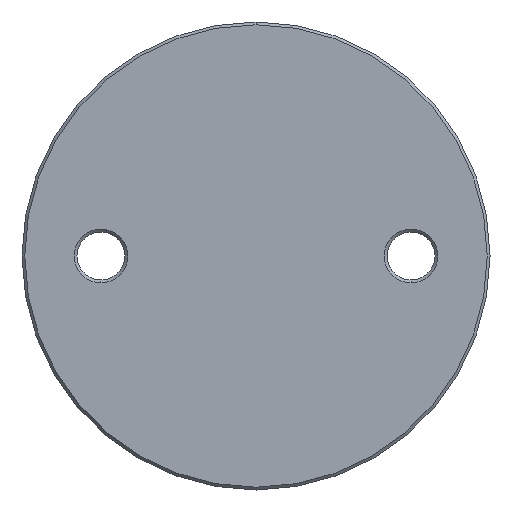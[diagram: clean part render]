
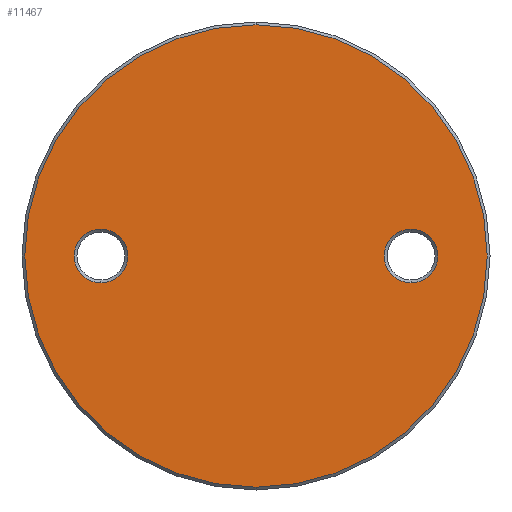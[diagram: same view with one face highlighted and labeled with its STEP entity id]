
A CAD part, front view. The second image highlights one B-rep face of the part: STEP entity #11467.
In plain terms, the highlighted planar face has unit normal (0, -1, 0).
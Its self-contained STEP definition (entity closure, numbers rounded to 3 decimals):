
#23 = AXIS2_PLACEMENT_3D ( 'NONE', #6435, #5716, #204 ) ;
#204 = DIRECTION ( 'NONE',  ( 0., 0., -1. ) ) ;
#217 = VERTEX_POINT ( 'NONE', #7643 ) ;
#546 = FACE_BOUND ( 'NONE', #1267, .T. ) ;
#597 = CARTESIAN_POINT ( 'NONE',  ( -27.5, -3., 0. ) ) ;
#604 = AXIS2_PLACEMENT_3D ( 'NONE', #8679, #6426, #7280 ) ;
#775 = DIRECTION ( 'NONE',  ( 0., 0., -1. ) ) ;
#834 = DIRECTION ( 'NONE',  ( 0., -1., 0. ) ) ;
#1090 = ORIENTED_EDGE ( 'NONE', *, *, #5834, .T. ) ;
#1267 = EDGE_LOOP ( 'NONE', ( #11381, #1090 ) ) ;
#2168 = CIRCLE ( 'NONE', #6238, 4.75 ) ;
#2507 = ORIENTED_EDGE ( 'NONE', *, *, #4407, .T. ) ;
#3042 = EDGE_CURVE ( 'NONE', #4175, #6158, #8639, .T. ) ;
#3391 = DIRECTION ( 'NONE',  ( 0., 0., -1. ) ) ;
#3841 = DIRECTION ( 'NONE',  ( 0., 0., -1. ) ) ;
#3947 = CARTESIAN_POINT ( 'NONE',  ( 0., -3., 41. ) ) ;
#4175 = VERTEX_POINT ( 'NONE', #6490 ) ;
#4253 = AXIS2_PLACEMENT_3D ( 'NONE', #11690, #5419, #3391 ) ;
#4407 = EDGE_CURVE ( 'NONE', #7616, #4933, #5432, .T. ) ;
#4526 = PLANE ( 'NONE',  #7952 ) ;
#4561 = CARTESIAN_POINT ( 'NONE',  ( 0., -3., 41.5 ) ) ;
#4639 = DIRECTION ( 'NONE',  ( 0., 0., -1. ) ) ;
#4740 = AXIS2_PLACEMENT_3D ( 'NONE', #4769, #9280, #3841 ) ;
#4769 = CARTESIAN_POINT ( 'NONE',  ( 27.5, -3., 0. ) ) ;
#4933 = VERTEX_POINT ( 'NONE', #3947 ) ;
#5306 = FACE_OUTER_BOUND ( 'NONE', #5737, .T. ) ;
#5346 = DIRECTION ( 'NONE',  ( 0., 1., 0. ) ) ;
#5388 = CARTESIAN_POINT ( 'NONE',  ( -27.5, -3., 0. ) ) ;
#5419 = DIRECTION ( 'NONE',  ( 0., -1., 0. ) ) ;
#5432 = CIRCLE ( 'NONE', #23, 41. ) ;
#5716 = DIRECTION ( 'NONE',  ( 0., -1., 0. ) ) ;
#5737 = EDGE_LOOP ( 'NONE', ( #7780, #2507 ) ) ;
#5834 = EDGE_CURVE ( 'NONE', #8607, #217, #10042, .T. ) ;
#6158 = VERTEX_POINT ( 'NONE', #8827 ) ;
#6173 = DIRECTION ( 'NONE',  ( 0., 1., 0. ) ) ;
#6238 = AXIS2_PLACEMENT_3D ( 'NONE', #5388, #5346, #775 ) ;
#6426 = DIRECTION ( 'NONE',  ( 0., 1., 0. ) ) ;
#6435 = CARTESIAN_POINT ( 'NONE',  ( 0., -3., 0. ) ) ;
#6490 = CARTESIAN_POINT ( 'NONE',  ( -27.5, -3., 4.75 ) ) ;
#7280 = DIRECTION ( 'NONE',  ( 0., 0., -1. ) ) ;
#7400 = CARTESIAN_POINT ( 'NONE',  ( 27.5, -3., 4.75 ) ) ;
#7496 = CIRCLE ( 'NONE', #4253, 41. ) ;
#7616 = VERTEX_POINT ( 'NONE', #9705 ) ;
#7621 = FACE_BOUND ( 'NONE', #11702, .T. ) ;
#7643 = CARTESIAN_POINT ( 'NONE',  ( 27.5, -3., -4.75 ) ) ;
#7723 = AXIS2_PLACEMENT_3D ( 'NONE', #597, #6173, #7976 ) ;
#7780 = ORIENTED_EDGE ( 'NONE', *, *, #10847, .T. ) ;
#7952 = AXIS2_PLACEMENT_3D ( 'NONE', #4561, #834, #4639 ) ;
#7976 = DIRECTION ( 'NONE',  ( 0., 0., -1. ) ) ;
#8350 = EDGE_CURVE ( 'NONE', #6158, #4175, #2168, .T. ) ;
#8607 = VERTEX_POINT ( 'NONE', #7400 ) ;
#8639 = CIRCLE ( 'NONE', #7723, 4.75 ) ;
#8679 = CARTESIAN_POINT ( 'NONE',  ( 27.5, -3., 0. ) ) ;
#8827 = CARTESIAN_POINT ( 'NONE',  ( -27.5, -3., -4.75 ) ) ;
#9276 = ORIENTED_EDGE ( 'NONE', *, *, #3042, .T. ) ;
#9280 = DIRECTION ( 'NONE',  ( 0., 1., 0. ) ) ;
#9705 = CARTESIAN_POINT ( 'NONE',  ( 0., -3., -41. ) ) ;
#10042 = CIRCLE ( 'NONE', #4740, 4.75 ) ;
#10384 = CIRCLE ( 'NONE', #604, 4.75 ) ;
#10544 = ORIENTED_EDGE ( 'NONE', *, *, #8350, .T. ) ;
#10784 = EDGE_CURVE ( 'NONE', #217, #8607, #10384, .T. ) ;
#10847 = EDGE_CURVE ( 'NONE', #4933, #7616, #7496, .T. ) ;
#11381 = ORIENTED_EDGE ( 'NONE', *, *, #10784, .T. ) ;
#11467 = ADVANCED_FACE ( 'NONE', ( #546, #7621, #5306 ), #4526, .T. ) ;
#11690 = CARTESIAN_POINT ( 'NONE',  ( 0., -3., 0. ) ) ;
#11702 = EDGE_LOOP ( 'NONE', ( #10544, #9276 ) ) ;
